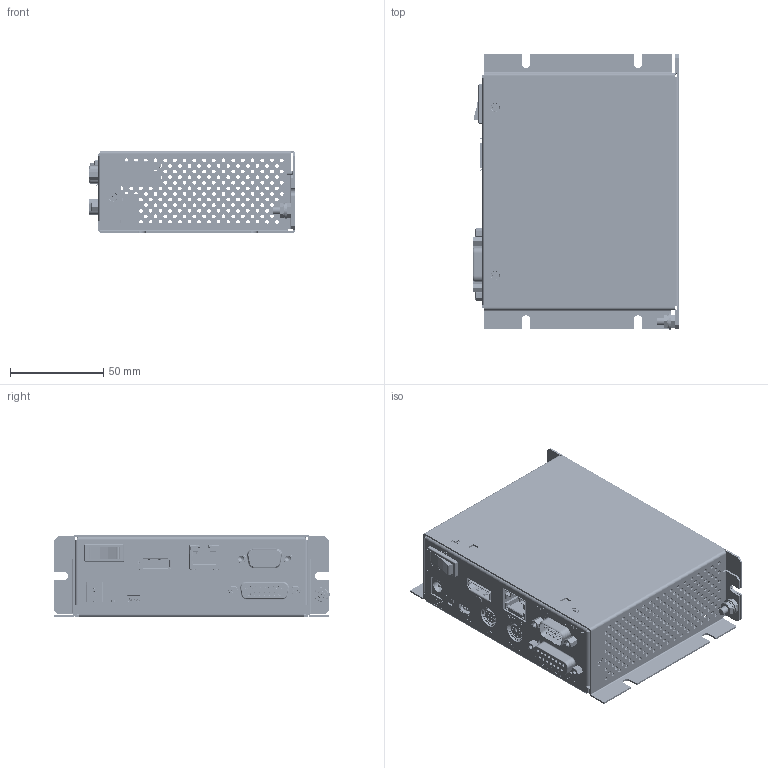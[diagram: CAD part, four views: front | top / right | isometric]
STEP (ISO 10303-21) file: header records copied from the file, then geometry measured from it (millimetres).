
FILE_DESCRIPTION (( 'STEP AP203' ), '1' );
FILE_NAME ('E-873.1AT_Customer ModelPRT.step', '2020-12-02T08:15:35', ( '' ), ( '' ), 'SwSTEP 2.0', 'SolidWorks 2018', '' );
FILE_SCHEMA (( 'CONFIG_CONTROL_DESIGN' ));
Products named in the file (1): E-873.1AT_Customer ModelPRT
Bounding box: 110.51 x 147.5 x 43.9 mm (x, y, z)
Surface area: 121072.8 mm2 (no closed solid volume)
Topology: 0 solids, 38 shells, 4813 faces, 13183 edges, 8639 vertices
Faces by surface type: plane 2402, cylinder 1510, bspline 626, cone 195, torus 76, sphere 4
Entity records: 185444 total; most frequent: CARTESIAN_POINT 63528, ORIENTED_EDGE 26330, DIRECTION 23154, EDGE_CURVE 13169, VERTEX_POINT 8639, VECTOR 8452, LINE 8452, AXIS2_PLACEMENT_3D 7351
